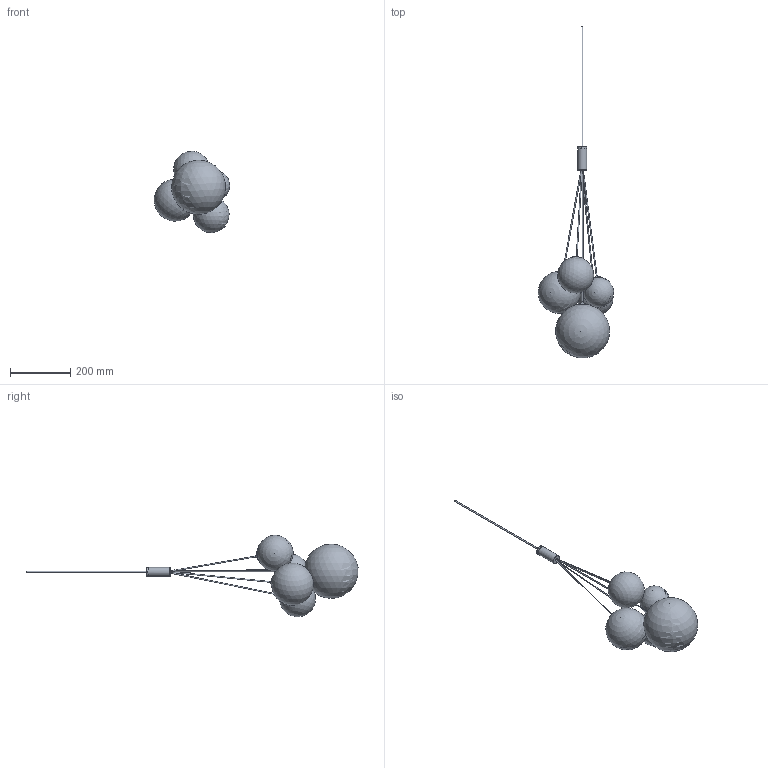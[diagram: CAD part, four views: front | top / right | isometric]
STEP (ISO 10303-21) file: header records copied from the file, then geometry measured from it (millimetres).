
FILE_DESCRIPTION (( 'STEP AP214' ), '1' );
FILE_NAME ('25510ME.STEP', '2025-11-06T13:27:58', ( '' ), ( '' ), 'SwSTEP 2.0', 'SolidWorks 2024', '' );
FILE_SCHEMA (( 'AUTOMOTIVE_DESIGN' ));
Length unit declared in the file: millimetre
Products named in the file (21): GRA-EI_EP_GRA-125; 25510ME; V200079_Rev01; 202008_Rev02; LED-0224_2700K - 3000K; 255M001_00; THE-00XX_00; 171V006_10; 202320_00; CAVOprincipale^25510ME_400; Cavo300^25510ME_Rev00; V200077_Rev00; V200078_Rev01; P200091_Rev00; Cavo350^25510ME_Rev00; Cavo365^25510ME_Rev00; 255Z001_01; LED-Luxe15-1_350mA_2700K - 3000K; Cavo380^25510ME_Rev00; Cover15_Rev00; Cavo450^25510ME_Rev00
Assembly tree (28 placements, depth 4):
  25510ME
    255M001_00
    202008_Rev02
    V200077_Rev00
    V200078_Rev01
    171V006_10
    255Z001_01  x4
      P200091_Rev00
      202320_00
      LED-Luxe15-1_350mA_2700K - 3000K
        LED-0224_2700K - 3000K
        Cover15_Rev00
        THE-00XX_00
    P200091_Rev00
    202320_00
    LED-Luxe15-1_350mA_2700K - 3000K
      LED-0224_2700K - 3000K
      Cover15_Rev00
      THE-00XX_00
    Cavo350^25510ME_Rev00
    Cavo380^25510ME_Rev00
    Cavo365^25510ME_Rev00
    Cavo450^25510ME_Rev00
    CAVOprincipale^25510ME_400
    Cavo300^25510ME_Rev00
    GRA-EI_EP_GRA-125  x2
    V200079_Rev01  x2
Bounding box: 250.43 x 1104.14 x 270.85 mm (x, y, z)
Volume: 596620.4 mm3; surface area: 613489.1 mm2
Topology: 65 solids, 65 shells, 538 faces, 1146 edges, 758 vertices
Faces by surface type: plane 336, cylinder 148, sphere 20, cone 16, torus 13, bspline 5
Full cylindrical faces by diameter (mm): 1.5 x20, 2 x25, 2.5 x12, 3 x9, 4 x1, 4.2 x1, 6 x1, 12 x5, 13 x10, 14 x5, 15 x10, 16.5 x5, 20 x5, 24 x5, 27.6 x1, 28 x1, 30 x2
Entity records: 5015 total; most frequent: CARTESIAN_POINT 1151, DIRECTION 716, ORIENTED_EDGE 488, AXIS2_PLACEMENT_3D 292, EDGE_LOOP 250, EDGE_CURVE 244, FACE_OUTER_BOUND 204, VERTEX_POINT 192
